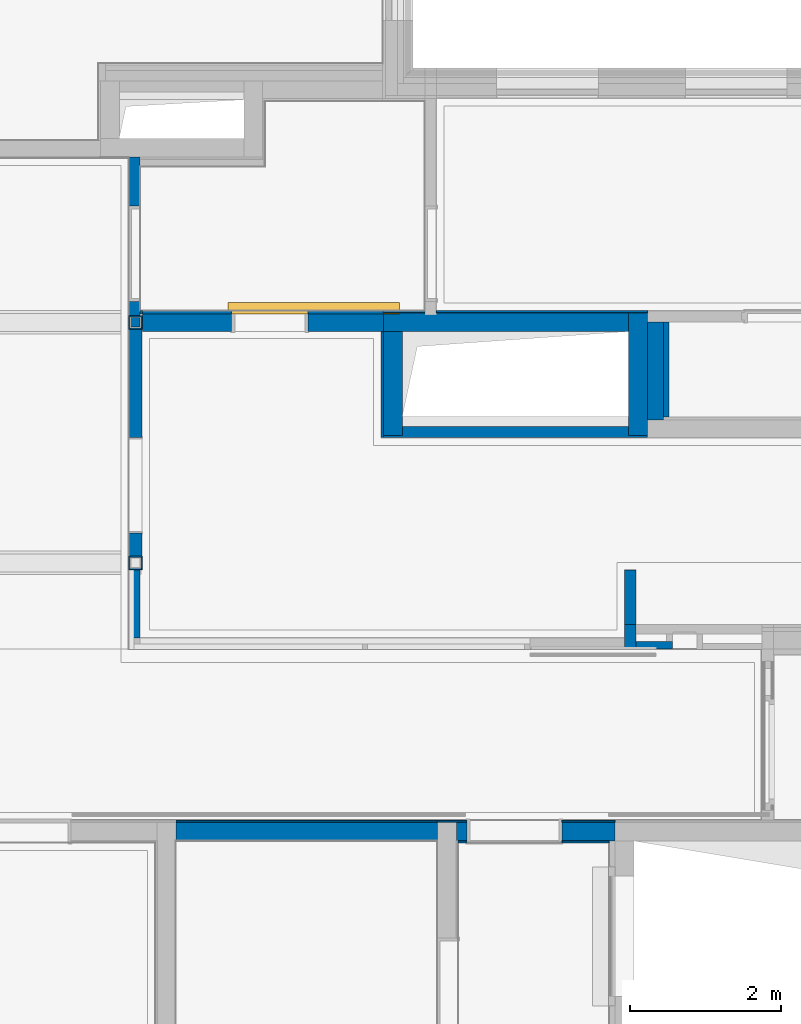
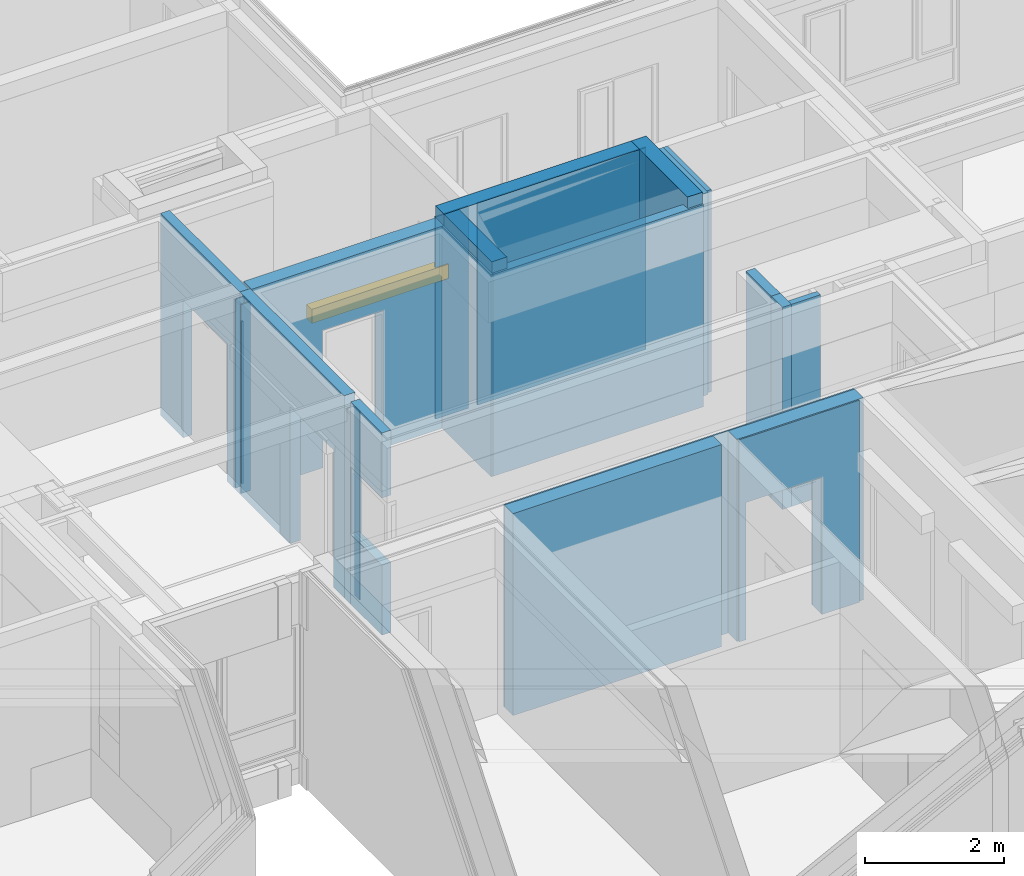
# One storey, part 23 of 222: 31 walls, 1 door, 8 openings.
"""IFC4 building model written with IfcOpenShell, lengths in metres."""

from ifc_helpers import new_model, entity, si_unit, converted_unit, derived_unit, frame, frame_2d, origin, origin_with_axes, place, context, subcontext, project, spatial, polyline, rectangle, outline, extrude, clip, bounded_halfspace, faceted_brep, source, transform, mapped, material, type_object, element, fill, save


model = new_model("IFC4")

# Units and contexts
model_context = context("Model", 3, precision=1e-05, world=origin())
body_context = subcontext(model_context, "Body", "Model", "MODEL_VIEW")
ifc_project = project(units=[si_unit("LENGTHUNIT", "METRE"), si_unit("AREAUNIT", "SQUARE_METRE"), si_unit("VOLUMEUNIT", "CUBIC_METRE"), si_unit("MASSUNIT", "GRAM", prefix="KILO"), converted_unit("PLANEANGLEUNIT", "DEGREE", entity("IfcPlaneAngleMeasure", 0.0174532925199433), si_unit("PLANEANGLEUNIT", "RADIAN"), dimensions=[0, 0, 0, 0, 0, 0, 0]), derived_unit("THERMALTRANSMITTANCEUNIT", [(si_unit("POWERUNIT", "WATT"), 1), (si_unit("THERMODYNAMICTEMPERATUREUNIT", "KELVIN"), -1), (si_unit("LENGTHUNIT", "METRE"), -2)]), derived_unit("VOLUMETRICFLOWRATEUNIT", [(si_unit("LENGTHUNIT", "METRE"), 3), (converted_unit("TIMEUNIT", "hour", entity("IfcTimeMeasure", 3600.0), si_unit("TIMEUNIT", "SECOND"), dimensions=[0, 0, 1, 0, 0, 0, 0]), -1), (si_unit("LENGTHUNIT", "METRE"), -1)])], contexts=[model_context])

# Site, building, storey
site_placement = place(None, origin())
site = spatial("IfcSite", under=ifc_project, at=site_placement, Name="Psychiatrie Neubau Wunstorf", CompositionType="ELEMENT")
building_placement = place(site_placement, origin())
building = spatial("IfcBuilding", under=site, at=building_placement, Name="Neubau H2 Stationsgebäude", CompositionType="ELEMENT")
storey_placement = place(building_placement, frame((0.0, 0.0, 3.6)))
storey = spatial("IfcBuildingStorey", under=building, at=storey_placement, Name="H2 Ebene +1", CompositionType="ELEMENT", Elevation=3.6)

# Walls
ifc_material_1 = material(Name="WI-STB")
wall_1_placement = place(storey_placement, frame((43.9500000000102, 7.02499969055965, 0.0), z_axis=(0.0, 0.0, 1.0), x_axis=(0.0, -1.0, 0.0)))
element("IfcWall", 1, at=wall_1_placement, inside=storey, material=ifc_material_1, context=body_context, shape_type="Clipping", body=[
    clip(extrude(rectangle(XDim=1.37749947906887, YDim=0.25, at=frame_2d((0.688749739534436, 0.125), x_axis=(1.0, 0.0))), origin_with_axes(), (0.0, 0.0, 1.0), 3.75), bounded_halfspace(frame((1.25249938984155, 0.125, 0.14), z_axis=(0.0, 0.0, 1.0), x_axis=(0.0, -1.0, 0.0)), True, origin_with_axes(), polyline([(1.12749930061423, 0.25), (1.12749930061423, 0.0), (1.37749947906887, 0.0), (1.37749947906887, 0.25), (1.12749930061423, 0.25)]))),
])
ifc_material_2 = material(Name="WI-LB")
wall_2_placement = place(storey_placement, frame((43.9500000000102, 5.61750021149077, 0.0)))
element("IfcWall", 2, at=wall_2_placement, inside=storey, material=ifc_material_2, context=body_context, shape_type="Clipping", body=[
    clip(extrude(rectangle(XDim=3.5000000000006, YDim=0.15, at=frame_2d((1.7500000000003, 0.075), x_axis=(1.0, 0.0))), origin_with_axes(), (0.0, 0.0, 1.0), 3.55), bounded_halfspace(frame((1.75, 0.09, 0.14), z_axis=(0.0, 0.0, 1.0), x_axis=(0.0, -1.0, 0.0)), True, origin_with_axes(), polyline([(0.25, 0.15), (0.25, 0.0300000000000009), (3.25, 0.0300000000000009), (3.25, 0.15), (0.25, 0.15)]))),
])
ifc_material_3 = material(Name="WI-LB")
wall_3_placement = place(storey_placement, frame((43.9500000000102, 5.61750021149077, 0.0), z_axis=(0.0, 0.0, 1.0), x_axis=(0.0, 1.0, 0.0)))
element("IfcWall", 3, at=wall_3_placement, inside=storey, material=ifc_material_3, context=body_context, shape_type="SweptSolid", body=[
    extrude(rectangle(XDim=1.41049947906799, YDim=0.0299996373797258, at=frame_2d((0.705249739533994, 0.0149998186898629), x_axis=(1.0, 0.0))), origin_with_axes(), (0.0, 0.0, 1.0), 3.55),
])
ifc_material_4 = material(Name="WI-LB")
wall_4_placement = place(storey_placement, frame((44.6499999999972, 7.27499969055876, 0.0)))
element("IfcWall", 4, at=wall_4_placement, inside=storey, material=ifc_material_4, context=body_context, shape_type="SweptSolid", body=[
    extrude(rectangle(XDim=2.80000000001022, YDim=0.025, at=frame_2d((1.40000000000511, 0.0125), x_axis=(1.0, 0.0))), origin_with_axes(), (0.0, 0.0, 1.0), 3.55),
])
ifc_material_5 = material(Name="WI-LB")
wall_5_placement = place(storey_placement, frame((43.9500000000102, 7.27499969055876, 0.0)))
element("IfcWall", 5, at=wall_5_placement, inside=storey, material=ifc_material_5, context=body_context, shape_type="SweptSolid", body=[
    extrude(rectangle(XDim=0.549999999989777, YDim=0.025, at=frame_2d((0.274999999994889, 0.0125), x_axis=(1.0, 0.0))), origin_with_axes(), (0.0, 0.0, 1.0), 3.55),
])
ifc_material_6 = material(Name="WI-STB")
wall_6_placement = place(storey_placement, frame((47.2000000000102, 7.27499969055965, 0.0), z_axis=(0.0, 0.0, 1.0), x_axis=(0.0, -1.0, 0.0)))
element("IfcWall", 6, at=wall_6_placement, inside=storey, material=ifc_material_6, context=body_context, shape_type="Clipping", body=[
    clip(extrude(rectangle(XDim=1.62749947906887, YDim=0.25, at=frame_2d((0.813749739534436, 0.125), x_axis=(1.0, 0.0))), origin_with_axes(), (0.0, 0.0, 1.0), 3.75), bounded_halfspace(frame((1.50249938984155, 0.125, 0.14), z_axis=(0.0, 0.0, 1.0), x_axis=(0.0, -1.0, 0.0)), True, origin_with_axes(), polyline([(1.37749930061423, 0.25), (1.37749930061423, 0.0), (1.62749947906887, 0.0), (1.62749947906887, 0.25), (1.37749930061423, 0.25)]))),
])

# Wall, opening
ifc_material_7 = material(Name="WI-LB")
wall_7_placement = place(storey_placement, frame((43.9500000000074, 7.29999969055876, 0.0), z_axis=(0.0, 0.0, 1.0), x_axis=(-1.0, 0.0, 0.0)))
wall_7 = element("IfcWall", 7, at=wall_7_placement, inside=storey, material=ifc_material_7, context=body_context, shape_type="SweptSolid", body=[
    extrude(rectangle(XDim=3.19500244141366, YDim=0.04, at=frame_2d((1.59750122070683, 0.02), x_axis=(1.0, 0.0))), origin_with_axes(), (0.0, 0.0, 1.0), 2.85),
])
opening_1_placement = place(wall_7_placement, frame((0.999999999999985, 0.0, 0.0), z_axis=(0.0, 1.0, 0.0), x_axis=(0.0, 0.0, 1.0)))
element("IfcOpeningElement", 8, at=opening_1_placement, cuts=wall_7, Name="Türöffnung", ObjectType="Opening", context=body_context, shape_type="SweptSolid", body=[
    extrude(outline(polyline([(2.41, 1.01), (2.41, 0.0), (0.0, 0.0), (0.0, 1.01), (2.41, 1.01)])), origin_with_axes(), (0.0, 0.0, 1.0), 0.04),
])

# Wall, opening, door
ifc_material_8 = material(Name="WI-HW 60")
wall_8_placement = place(storey_placement, frame((43.9500000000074, 7.25999969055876, 0.0), z_axis=(0.0, 0.0, 1.0), x_axis=(-1.0, 0.0, 0.0)))
wall_8 = element("IfcWall", 9, at=wall_8_placement, inside=storey, material=ifc_material_8, context=body_context, shape_type="SweptSolid", body=[
    extrude(rectangle(XDim=3.19500244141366, YDim=0.232, at=frame_2d((1.59750122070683, 0.116), x_axis=(1.0, 0.0))), origin_with_axes(), (0.0, 0.0, 1.0), 3.55),
])
opening_2_placement = place(wall_8_placement, frame((0.999999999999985, 0.0, 0.0), z_axis=(0.0, 1.0, 0.0), x_axis=(0.0, 0.0, 1.0)))
opening_2 = element("IfcOpeningElement", 10, at=opening_2_placement, cuts=wall_8, Name="Türöffnung", ObjectType="Opening", context=body_context, shape_type="SweptSolid", body=[
    extrude(outline(polyline([(2.41, 1.01), (2.41, 0.0), (0.0, 0.0), (0.0, 1.01), (2.41, 1.01)])), origin_with_axes(), (0.0, 0.0, 1.0), 0.232),
])
door_type = type_object("IfcDoorType", Name="SMT", OperationType="NOTDEFINED", ParameterTakesPrecedence=False, PredefinedType="DOOR")
shared_shape = source(origin_with_axes(), body_context, "Body", "Brep", [
    faceted_brep([(0.0, 0.15, 0.0), (0.0, 0.0, 0.0), (2.27, 0.0, 0.0), (2.27, 0.15, 0.0), (0.0, 0.0, 0.25), (0.0, 0.15, 0.25), (2.27, 0.15, 0.25), (2.27, 0.0, 0.25)], [[[0, 1, 2, 3]], [[4, 5, 6, 7]], [[1, 0, 5, 4]], [[2, 1, 4, 7]], [[3, 2, 7, 6]], [[0, 3, 6, 5]]], orient=[[False], [False], [False], [False], [False], [False]]),
])
door_placement = place(opening_2_placement, frame((2.41, 1.06, 0.0), z_axis=(1.0, 0.0, 0.0), x_axis=(0.0, -1.0, 2.44929359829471e-16)))
door = element("IfcDoor", 11, at=door_placement, inside=storey, type_object=door_type, Name="SMT", OverallHeight=2.41, OverallWidth=1.01, context=body_context, shape_type="MappedRepresentation", body=[
    mapped(shared_shape, transform((0.0, 0.0, 0.0), x_axis=(1.0, 0.0, 0.0), y_axis=(0.0, 1.0, 0.0), z_axis=(0.0, 0.0, 1.0), scale=1.0)),
])
fill(opening_2, door)

# Walls
ifc_material_9 = material(Name="WI-STB")
wall_9_placement = place(storey_placement, frame((43.9500000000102, 7.02499969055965, 0.0)))
element("IfcWall", 12, at=wall_9_placement, inside=storey, material=ifc_material_9, context=body_context, shape_type="SweptSolid", body=[
    extrude(rectangle(XDim=3.25, YDim=0.25, at=frame_2d((1.625, 0.125), x_axis=(1.0, 0.0))), origin_with_axes(), (0.0, 0.0, 1.0), 3.75),
])
ifc_material_10 = material(Name="WI-PR")
wall_10_placement = place(storey_placement, frame((40.7549975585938, 7.23649969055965, 0.0), z_axis=(0.0, 0.0, 1.0), x_axis=(-1.0, 0.0, 0.0)))
element("IfcWall", 13, at=wall_10_placement, inside=storey, material=ifc_material_10, context=body_context, shape_type="SweptSolid", body=[
    extrude(rectangle(XDim=0.16, YDim=0.02, at=frame_2d((0.08, 0.01), x_axis=(1.0, 0.0))), origin_with_axes(), (0.0, 0.0, 1.0), 3.317),
])
ifc_material_11 = material(Name="WI-PR")
wall_11_placement = place(storey_placement, frame((40.5749975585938, 7.23649969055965, 0.0), z_axis=(0.0, 0.0, 1.0), x_axis=(0.0, -1.0, 0.0)))
element("IfcWall", 14, at=wall_11_placement, inside=storey, material=ifc_material_11, context=body_context, shape_type="SweptSolid", body=[
    extrude(rectangle(XDim=0.18, YDim=0.02, at=frame_2d((0.09, 0.01), x_axis=(1.0, 0.0))), origin_with_axes(), (0.0, 0.0, 1.0), 3.317),
])
ifc_material_12 = material(Name="WI-PR")
wall_12_placement = place(storey_placement, frame((40.5949975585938, 7.05649969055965, 0.0)))
element("IfcWall", 15, at=wall_12_placement, inside=storey, material=ifc_material_12, context=body_context, shape_type="SweptSolid", body=[
    extrude(rectangle(XDim=0.16, YDim=0.02, at=frame_2d((0.08, 0.01), x_axis=(1.0, 0.0))), origin_with_axes(), (0.0, 0.0, 1.0), 3.317),
])
ifc_material_13 = material(Name="WI-PR")
wall_13_placement = place(storey_placement, frame((40.7549975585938, 7.07649969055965, 0.0), z_axis=(0.0, 0.0, 1.0), x_axis=(0.0, 1.0, 0.0)))
element("IfcWall", 16, at=wall_13_placement, inside=storey, material=ifc_material_13, context=body_context, shape_type="SweptSolid", body=[
    extrude(rectangle(XDim=0.14, YDim=0.02, at=frame_2d((0.07, 0.01), x_axis=(1.0, 0.0))), origin_with_axes(), (0.0, 0.0, 1.0), 3.317),
])
ifc_material_14 = material(Name="WI-LB")
wall_14_placement = place(storey_placement, frame((40.7249975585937, 7.25999969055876, 0.0)))
element("IfcWall", 17, at=wall_14_placement, inside=storey, material=ifc_material_14, context=body_context, shape_type="SweptSolid", body=[
    extrude(rectangle(XDim=0.0300000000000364, YDim=0.04, at=frame_2d((0.0150000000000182, 0.02), x_axis=(1.0, 0.0))), origin_with_axes(), (0.0, 0.0, 1.0), 2.85),
])
ifc_material_15 = material(Name="WI-PR")
wall_15_placement = place(storey_placement, frame((40.7549975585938, 4.0499969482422, 0.0), z_axis=(0.0, 0.0, 1.0), x_axis=(-1.0, 0.0, 0.0)))
element("IfcWall", 18, at=wall_15_placement, inside=storey, material=ifc_material_15, context=body_context, shape_type="SweptSolid", body=[
    extrude(rectangle(XDim=0.16, YDim=0.02, at=frame_2d((0.08, 0.01), x_axis=(1.0, 0.0))), origin_with_axes(), (0.0, 0.0, 1.0), 3.317),
])
ifc_material_16 = material(Name="WI-PR")
wall_16_placement = place(storey_placement, frame((40.5749975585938, 4.0499969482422, 0.0), z_axis=(0.0, 0.0, 1.0), x_axis=(0.0, -1.0, 0.0)))
element("IfcWall", 19, at=wall_16_placement, inside=storey, material=ifc_material_16, context=body_context, shape_type="SweptSolid", body=[
    extrude(rectangle(XDim=0.18, YDim=0.02, at=frame_2d((0.09, 0.01), x_axis=(1.0, 0.0))), origin_with_axes(), (0.0, 0.0, 1.0), 3.317),
])
ifc_material_17 = material(Name="WI-PR")
wall_17_placement = place(storey_placement, frame((40.5949975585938, 3.8699969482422, 0.0)))
element("IfcWall", 20, at=wall_17_placement, inside=storey, material=ifc_material_17, context=body_context, shape_type="SweptSolid", body=[
    extrude(rectangle(XDim=0.16, YDim=0.02, at=frame_2d((0.08, 0.01), x_axis=(1.0, 0.0))), origin_with_axes(), (0.0, 0.0, 1.0), 3.317),
])
ifc_material_18 = material(Name="WI-PR")
wall_18_placement = place(storey_placement, frame((40.7549975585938, 3.8899969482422, 0.0), z_axis=(0.0, 0.0, 1.0), x_axis=(0.0, 1.0, 0.0)))
element("IfcWall", 21, at=wall_18_placement, inside=storey, material=ifc_material_18, context=body_context, shape_type="SweptSolid", body=[
    extrude(rectangle(XDim=0.14, YDim=0.02, at=frame_2d((0.07, 0.01), x_axis=(1.0, 0.0))), origin_with_axes(), (0.0, 0.0, 1.0), 3.317),
])

# Wall, opening
ifc_material_19 = material(Name="WI-LB")
wall_19_placement = place(storey_placement, frame((40.5749975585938, 3.8699969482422, 0.0), z_axis=(0.0, 0.0, 1.0), x_axis=(0.0, -1.0, 0.0)))
wall_19 = element("IfcWall", 22, at=wall_19_placement, inside=storey, material=ifc_material_19, context=body_context, shape_type="SweptSolid", body=[
    extrude(rectangle(XDim=0.902647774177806, YDim=0.15, at=frame_2d((0.451323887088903, 0.075), x_axis=(1.0, 0.0))), origin_with_axes(), (0.0, 0.0, 1.0), 3.55),
])
opening_3_placement = place(wall_19_placement, frame((1.05249725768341, 0.15, 1.23), z_axis=(0.0, -1.0, 0.0), x_axis=(0.0, 0.0, 1.0)))
element("IfcOpeningElement", 23, at=opening_3_placement, cuts=wall_19, Name="Fensteröffnung", ObjectType="Opening", context=body_context, shape_type="SweptSolid", body=[
    extrude(outline(polyline([(1.18, 1.05249725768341), (1.18, 0.0), (0.0, 0.0), (0.0, 1.05249725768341), (1.18, 1.05249725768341)])), origin_with_axes(), (0.0, 0.0, 1.0), 0.15),
])

# Walls
ifc_material_20 = material(Name="WI-LB")
wall_20_placement = place(storey_placement, frame((47.2929119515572, 2.81749969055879, 0.0)))
element("IfcWall", 24, at=wall_20_placement, inside=storey, material=ifc_material_20, context=body_context, shape_type="SweptSolid", body=[
    extrude(rectangle(XDim=0.483458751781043, YDim=0.1, at=frame_2d((0.241729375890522, 0.05), x_axis=(1.0, 0.0))), origin_with_axes(), (0.0, 0.0, 1.0), 3.55),
])
ifc_material_21 = material(Name="Installationsraum")
wall_21_placement = place(storey_placement, frame((47.4500000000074, 7.14999969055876, 0.0), z_axis=(0.0, 0.0, 1.0), x_axis=(2.19873317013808e-12, -1.0, 0.0)))
element("IfcWall", 25, at=wall_21_placement, inside=storey, material=ifc_material_21, context=body_context, shape_type="SweptSolid", body=[
    extrude(rectangle(XDim=1.30049947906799, YDim=0.21, at=frame_2d((0.650249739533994, 0.105), x_axis=(1.0, 0.0))), origin_with_axes(), (0.0, 0.0, 1.0), 3.55),
])
ifc_material_22 = material(Name="WI-VS")
wall_22_placement = place(storey_placement, frame((47.6600000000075, 7.14999969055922, 0.0), z_axis=(0.0, 0.0, 1.0), x_axis=(2.19923918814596e-12, -1.0, 0.0)))
element("IfcWall", 26, at=wall_22_placement, inside=storey, material=ifc_material_22, context=body_context, shape_type="SweptSolid", body=[
    extrude(rectangle(XDim=1.26049947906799, YDim=0.075, at=frame_2d((0.630249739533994, 0.0375), x_axis=(1.0, 0.0))), origin_with_axes(), (0.0, 0.0, 1.0), 3.55),
])

# Wall, opening
ifc_material_23 = material(Name="WI-LB")
wall_23_placement = place(storey_placement, frame((40.5749975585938, 7.05649969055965, 0.0), z_axis=(0.0, 0.0, 1.0), x_axis=(0.0, -1.0, 0.0)))
wall_23 = element("IfcWall", 27, at=wall_23_placement, inside=storey, material=ifc_material_23, context=body_context, shape_type="SweptSolid", body=[
    extrude(outline(polyline([(-3.00651163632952, 0.0), (-8.88637829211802e-06, 0.0), (0.0, 0.175), (-3.00651163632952, 0.175), (-3.00651163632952, 0.0)])), frame((3.00651163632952, 0.0, 0.0), z_axis=(0.0, 0.0, 1.0), x_axis=(1.0, 0.0, 0.0)), (0.0, 0.0, 1.0), 3.55),
])
opening_4_placement = place(wall_23_placement, frame((1.43899947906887, 0.0, 0.0), z_axis=(0.0, 1.0, 0.0), x_axis=(0.0, 0.0, 1.0)))
element("IfcOpeningElement", 28, at=opening_4_placement, cuts=wall_23, Name="Türöffnung", ObjectType="Opening", context=body_context, shape_type="SweptSolid", body=[
    extrude(outline(polyline([(2.41, 1.26), (2.41, 0.0), (0.0, 0.0), (0.0, 1.26), (2.41, 1.26)])), origin_with_axes(), (0.0, 0.0, 1.0), 0.175),
])

# Walls
ifc_material_24 = material(Name="WI-LB")
wall_24_placement = place(storey_placement, frame((47.2929119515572, 2.81749969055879, 0.0), z_axis=(0.0, 0.0, 1.0), x_axis=(0.0, 1.0, 0.0)))
element("IfcWall", 29, at=wall_24_placement, inside=storey, material=ifc_material_24, context=body_context, shape_type="SweptSolid", body=[
    extrude(rectangle(XDim=0.324999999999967, YDim=0.15, at=frame_2d((0.162499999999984, 0.075), x_axis=(1.0, 0.0))), origin_with_axes(), (0.0, 0.0, 1.0), 3.55),
])
ifc_material_25 = material(Name="WI-LB")
wall_25_placement = place(storey_placement, frame((47.2929119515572, 3.14249969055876, 0.0), z_axis=(0.0, 0.0, 1.0), x_axis=(0.0, 1.0, 0.0)))
element("IfcWall", 30, at=wall_25_placement, inside=storey, material=ifc_material_25, context=body_context, shape_type="SweptSolid", body=[
    extrude(rectangle(XDim=0.725000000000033, YDim=0.15, at=frame_2d((0.362500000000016, 0.075), x_axis=(1.0, 0.0))), origin_with_axes(), (0.0, 0.0, 1.0), 3.55),
])

# Wall, opening
ifc_material_26 = material(Name="WI-LB")
wall_26_placement = place(storey_placement, frame((40.5749975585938, 9.33499624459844, 0.0), z_axis=(0.0, 0.0, 1.0), x_axis=(0.0, -1.0, 0.0)))
wall_26 = element("IfcWall", 31, at=wall_26_placement, inside=storey, material=ifc_material_26, context=body_context, shape_type="Clipping", body=[
    clip(extrude(rectangle(XDim=2.27849655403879, YDim=0.149999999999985, at=frame_2d((1.1392482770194, 0.0749999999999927), x_axis=(1.0, 0.0))), origin_with_axes(), (0.0, 0.0, 1.0), 3.55), bounded_halfspace(frame((2.18849655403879, 0.08125, 3.317), z_axis=(0.0, 0.0, 1.0), x_axis=(0.0, -1.0, 0.0)), True, origin_with_axes(), polyline([(2.09849655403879, 0.149999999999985), (2.09849655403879, 0.0), (2.27849655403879, 0.0), (2.27849655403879, 0.149999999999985), (2.2534965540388, 0.149999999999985), (2.2534965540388, 0.0250000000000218), (2.12349655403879, 0.0250000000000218), (2.12349655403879, 0.149999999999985), (2.09849655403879, 0.149999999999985)]))),
])
opening_5_placement = place(wall_26_placement, frame((1.90999655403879, 0.150000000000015, 0.0), z_axis=(0.0, -1.0, 0.0), x_axis=(0.0, 0.0, 1.0)))
element("IfcOpeningElement", 32, at=opening_5_placement, cuts=wall_26, Name="Türöffnung", ObjectType="Opening", context=body_context, shape_type="SweptSolid", body=[
    extrude(outline(polyline([(2.41, 1.26), (2.41, 0.0), (0.0, 0.0), (0.0, 1.26), (2.41, 1.26)])), origin_with_axes(), (0.0, 0.0, 1.0), 0.15),
])

# Walls
ifc_material_27 = material(Name="WI-LB")
wall_27_placement = place(storey_placement, frame((44.6660048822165, 0.549, 0.0), z_axis=(0.0, 0.0, 1.0), x_axis=(-1.0, 0.0, 0.0)))
element("IfcWall", 33, at=wall_27_placement, inside=storey, material=ifc_material_27, context=body_context, shape_type="SweptSolid", body=[
    extrude(rectangle(XDim=3.46600488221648, YDim=0.024, at=frame_2d((1.73300244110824, 0.012), x_axis=(1.0, 0.0))), origin_with_axes(), (0.0, 0.0, 1.0), 3.55),
])
ifc_material_28 = material(Name="WI-STB")
wall_28_placement = place(storey_placement, frame((44.6660048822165, 0.525, 0.0), z_axis=(0.0, 0.0, 1.0), x_axis=(-1.0, 0.0, 0.0)))
element("IfcWall", 34, at=wall_28_placement, inside=storey, material=ifc_material_28, context=body_context, shape_type="SweptSolid", body=[
    extrude(rectangle(XDim=3.46600488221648, YDim=0.25, at=frame_2d((1.73300244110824, 0.125), x_axis=(1.0, 0.0))), origin_with_axes(), (0.0, 0.0, 1.0), 3.55),
])

# Wall, opening
ifc_material_29 = material(Name="WI-LB")
wall_29_placement = place(storey_placement, frame((47.0200048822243, 0.549, 0.0), z_axis=(0.0, 0.0, 1.0), x_axis=(-1.0, 9.65903464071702e-17, 0.0)))
wall_29 = element("IfcWall", 35, at=wall_29_placement, inside=storey, material=ifc_material_29, context=body_context, shape_type="SweptSolid", body=[
    extrude(rectangle(XDim=2.3540000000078, YDim=0.024, at=frame_2d((1.1770000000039, 0.012), x_axis=(1.0, 0.0))), origin_with_axes(), (0.0, 0.0, 1.0), 3.55),
])
opening_6_placement = place(wall_29_placement, frame((1.96500000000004, 0.024, 0.0), z_axis=(0.0, -1.0, 0.0), x_axis=(0.0, 0.0, 1.0)))
element("IfcOpeningElement", 36, at=opening_6_placement, cuts=wall_29, Name="Türöffnung", ObjectType="Opening", context=body_context, shape_type="SweptSolid", body=[
    extrude(outline(polyline([(2.41, 1.26), (2.41, 0.0), (0.0, 0.0), (0.0, 1.26), (2.41, 1.26)])), origin_with_axes(), (0.0, 0.0, 1.0), 0.024),
])

ifc_material_30 = material(Name="WI-STB")
wall_30_placement = place(storey_placement, frame((47.0200048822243, 0.525, 0.0), z_axis=(0.0, 0.0, 1.0), x_axis=(-1.0, 1.08067336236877e-16, 0.0)))
wall_30 = element("IfcWall", 37, at=wall_30_placement, inside=storey, material=ifc_material_30, context=body_context, shape_type="SweptSolid", body=[
    extrude(rectangle(XDim=2.1040000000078, YDim=0.25, at=frame_2d((1.0520000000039, 0.125), x_axis=(1.0, 0.0))), origin_with_axes(), (0.0, 0.0, 1.0), 3.55),
])
opening_7_placement = place(wall_30_placement, frame((1.96500000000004, 0.249999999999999, 0.0), z_axis=(0.0, -1.0, 0.0), x_axis=(0.0, 0.0, 1.0)))
element("IfcOpeningElement", 38, at=opening_7_placement, cuts=wall_30, Name="Türöffnung", ObjectType="Opening", context=body_context, shape_type="SweptSolid", body=[
    extrude(outline(polyline([(2.41, 1.26), (2.41, 0.0), (0.0, 0.0), (0.0, 1.26), (2.41, 1.26)])), origin_with_axes(), (0.0, 0.0, 1.0), 0.249999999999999),
])

ifc_material_31 = material(Name="WI-LB")
wall_31_placement = place(storey_placement, frame((46.9400048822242, 0.275, 0.0), z_axis=(0.0, 0.0, 1.0), x_axis=(-1.0, 1.13743709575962e-16, 0.0)))
wall_31 = element("IfcWall", 39, at=wall_31_placement, inside=storey, material=ifc_material_31, context=body_context, shape_type="SweptSolid", body=[
    extrude(rectangle(XDim=1.99900000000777, YDim=0.025, at=frame_2d((0.999500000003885, 0.0125), x_axis=(1.0, 0.0))), origin_with_axes(), (0.0, 0.0, 1.0), 3.55),
])
opening_8_placement = place(wall_31_placement, frame((1.88500000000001, 0.025, 0.0), z_axis=(0.0, -1.0, 0.0), x_axis=(0.0, 0.0, 1.0)))
element("IfcOpeningElement", 40, at=opening_8_placement, cuts=wall_31, Name="Türöffnung", ObjectType="Opening", context=body_context, shape_type="SweptSolid", body=[
    extrude(outline(polyline([(2.41, 1.26), (2.41, 0.0), (0.0, 0.0), (0.0, 1.26), (2.41, 1.26)])), origin_with_axes(), (0.0, 0.0, 1.0), 0.025),
])

save(model, "model.ifc")
